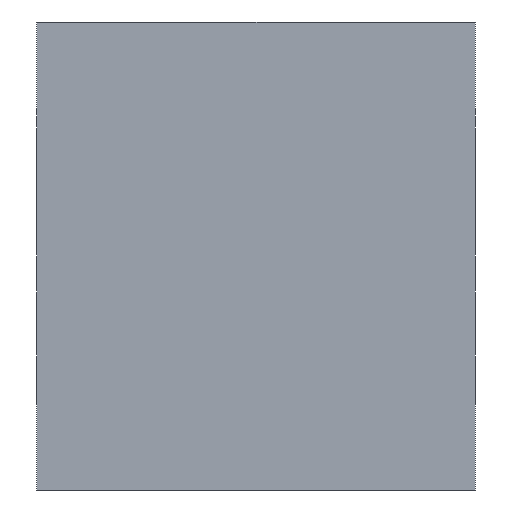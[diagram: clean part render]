
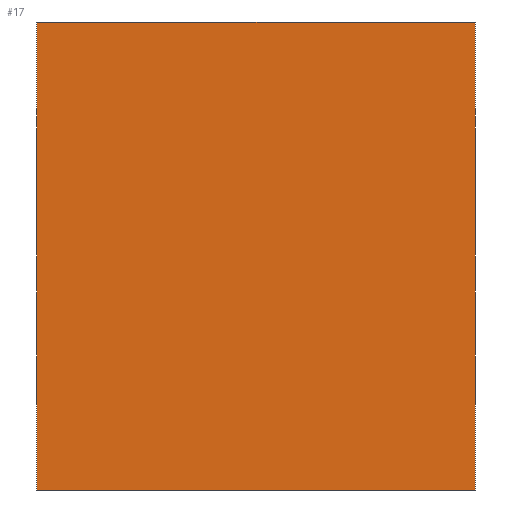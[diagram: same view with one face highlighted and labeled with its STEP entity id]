
A CAD part, left-side view. The second image highlights one B-rep face of the part: STEP entity #17.
In plain terms, the highlighted planar face has unit normal (-1, 0, 0).
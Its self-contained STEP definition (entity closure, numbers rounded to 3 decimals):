
#17 = ADVANCED_FACE('',(#18),#32,.F.);
#18 = FACE_BOUND('',#19,.F.);
#19 = EDGE_LOOP('',(#20,#55,#83,#111));
#20 = ORIENTED_EDGE('',*,*,#21,.F.);
#21 = EDGE_CURVE('',#22,#24,#26,.T.);
#22 = VERTEX_POINT('',#23);
#23 = CARTESIAN_POINT('',(165.,53.,167.));
#24 = VERTEX_POINT('',#25);
#25 = CARTESIAN_POINT('',(165.,53.,199.));
#26 = SURFACE_CURVE('',#27,(#31,#43),.PCURVE_S1.);
#27 = LINE('',#28,#29);
#28 = CARTESIAN_POINT('',(165.,53.,167.));
#29 = VECTOR('',#30,1.);
#30 = DIRECTION('',(0.,0.,1.));
#31 = PCURVE('',#32,#37);
#32 = PLANE('',#33);
#33 = AXIS2_PLACEMENT_3D('',#34,#35,#36);
#34 = CARTESIAN_POINT('',(165.,53.,167.));
#35 = DIRECTION('',(1.,0.,0.));
#36 = DIRECTION('',(0.,0.,1.));
#37 = DEFINITIONAL_REPRESENTATION('',(#38),#42);
#38 = LINE('',#39,#40);
#39 = CARTESIAN_POINT('',(0.,0.));
#40 = VECTOR('',#41,1.);
#41 = DIRECTION('',(1.,0.));
#42 = ( GEOMETRIC_REPRESENTATION_CONTEXT(2) 
PARAMETRIC_REPRESENTATION_CONTEXT() REPRESENTATION_CONTEXT('2D SPACE',''
  ) );
#43 = PCURVE('',#44,#49);
#44 = PLANE('',#45);
#45 = AXIS2_PLACEMENT_3D('',#46,#47,#48);
#46 = CARTESIAN_POINT('',(165.,53.,167.));
#47 = DIRECTION('',(0.,1.,0.));
#48 = DIRECTION('',(0.,0.,1.));
#49 = DEFINITIONAL_REPRESENTATION('',(#50),#54);
#50 = LINE('',#51,#52);
#51 = CARTESIAN_POINT('',(0.,0.));
#52 = VECTOR('',#53,1.);
#53 = DIRECTION('',(1.,0.));
#54 = ( GEOMETRIC_REPRESENTATION_CONTEXT(2) 
PARAMETRIC_REPRESENTATION_CONTEXT() REPRESENTATION_CONTEXT('2D SPACE',''
  ) );
#55 = ORIENTED_EDGE('',*,*,#56,.T.);
#56 = EDGE_CURVE('',#22,#57,#59,.T.);
#57 = VERTEX_POINT('',#58);
#58 = CARTESIAN_POINT('',(165.,83.,167.));
#59 = SURFACE_CURVE('',#60,(#64,#71),.PCURVE_S1.);
#60 = LINE('',#61,#62);
#61 = CARTESIAN_POINT('',(165.,53.,167.));
#62 = VECTOR('',#63,1.);
#63 = DIRECTION('',(0.,1.,0.));
#64 = PCURVE('',#32,#65);
#65 = DEFINITIONAL_REPRESENTATION('',(#66),#70);
#66 = LINE('',#67,#68);
#67 = CARTESIAN_POINT('',(0.,0.));
#68 = VECTOR('',#69,1.);
#69 = DIRECTION('',(0.,-1.));
#70 = ( GEOMETRIC_REPRESENTATION_CONTEXT(2) 
PARAMETRIC_REPRESENTATION_CONTEXT() REPRESENTATION_CONTEXT('2D SPACE',''
  ) );
#71 = PCURVE('',#72,#77);
#72 = PLANE('',#73);
#73 = AXIS2_PLACEMENT_3D('',#74,#75,#76);
#74 = CARTESIAN_POINT('',(165.,53.,167.));
#75 = DIRECTION('',(0.,0.,1.));
#76 = DIRECTION('',(1.,0.,0.));
#77 = DEFINITIONAL_REPRESENTATION('',(#78),#82);
#78 = LINE('',#79,#80);
#79 = CARTESIAN_POINT('',(0.,0.));
#80 = VECTOR('',#81,1.);
#81 = DIRECTION('',(0.,1.));
#82 = ( GEOMETRIC_REPRESENTATION_CONTEXT(2) 
PARAMETRIC_REPRESENTATION_CONTEXT() REPRESENTATION_CONTEXT('2D SPACE',''
  ) );
#83 = ORIENTED_EDGE('',*,*,#84,.T.);
#84 = EDGE_CURVE('',#57,#85,#87,.T.);
#85 = VERTEX_POINT('',#86);
#86 = CARTESIAN_POINT('',(165.,83.,199.));
#87 = SURFACE_CURVE('',#88,(#92,#99),.PCURVE_S1.);
#88 = LINE('',#89,#90);
#89 = CARTESIAN_POINT('',(165.,83.,167.));
#90 = VECTOR('',#91,1.);
#91 = DIRECTION('',(0.,0.,1.));
#92 = PCURVE('',#32,#93);
#93 = DEFINITIONAL_REPRESENTATION('',(#94),#98);
#94 = LINE('',#95,#96);
#95 = CARTESIAN_POINT('',(0.,-30.));
#96 = VECTOR('',#97,1.);
#97 = DIRECTION('',(1.,0.));
#98 = ( GEOMETRIC_REPRESENTATION_CONTEXT(2) 
PARAMETRIC_REPRESENTATION_CONTEXT() REPRESENTATION_CONTEXT('2D SPACE',''
  ) );
#99 = PCURVE('',#100,#105);
#100 = PLANE('',#101);
#101 = AXIS2_PLACEMENT_3D('',#102,#103,#104);
#102 = CARTESIAN_POINT('',(165.,83.,167.));
#103 = DIRECTION('',(0.,1.,0.));
#104 = DIRECTION('',(0.,0.,1.));
#105 = DEFINITIONAL_REPRESENTATION('',(#106),#110);
#106 = LINE('',#107,#108);
#107 = CARTESIAN_POINT('',(0.,0.));
#108 = VECTOR('',#109,1.);
#109 = DIRECTION('',(1.,0.));
#110 = ( GEOMETRIC_REPRESENTATION_CONTEXT(2) 
PARAMETRIC_REPRESENTATION_CONTEXT() REPRESENTATION_CONTEXT('2D SPACE',''
  ) );
#111 = ORIENTED_EDGE('',*,*,#112,.F.);
#112 = EDGE_CURVE('',#24,#85,#113,.T.);
#113 = SURFACE_CURVE('',#114,(#118,#125),.PCURVE_S1.);
#114 = LINE('',#115,#116);
#115 = CARTESIAN_POINT('',(165.,53.,199.));
#116 = VECTOR('',#117,1.);
#117 = DIRECTION('',(0.,1.,0.));
#118 = PCURVE('',#32,#119);
#119 = DEFINITIONAL_REPRESENTATION('',(#120),#124);
#120 = LINE('',#121,#122);
#121 = CARTESIAN_POINT('',(32.,0.));
#122 = VECTOR('',#123,1.);
#123 = DIRECTION('',(0.,-1.));
#124 = ( GEOMETRIC_REPRESENTATION_CONTEXT(2) 
PARAMETRIC_REPRESENTATION_CONTEXT() REPRESENTATION_CONTEXT('2D SPACE',''
  ) );
#125 = PCURVE('',#126,#131);
#126 = PLANE('',#127);
#127 = AXIS2_PLACEMENT_3D('',#128,#129,#130);
#128 = CARTESIAN_POINT('',(165.,53.,199.));
#129 = DIRECTION('',(0.,0.,1.));
#130 = DIRECTION('',(1.,0.,0.));
#131 = DEFINITIONAL_REPRESENTATION('',(#132),#136);
#132 = LINE('',#133,#134);
#133 = CARTESIAN_POINT('',(0.,0.));
#134 = VECTOR('',#135,1.);
#135 = DIRECTION('',(0.,1.));
#136 = ( GEOMETRIC_REPRESENTATION_CONTEXT(2) 
PARAMETRIC_REPRESENTATION_CONTEXT() REPRESENTATION_CONTEXT('2D SPACE',''
  ) );
